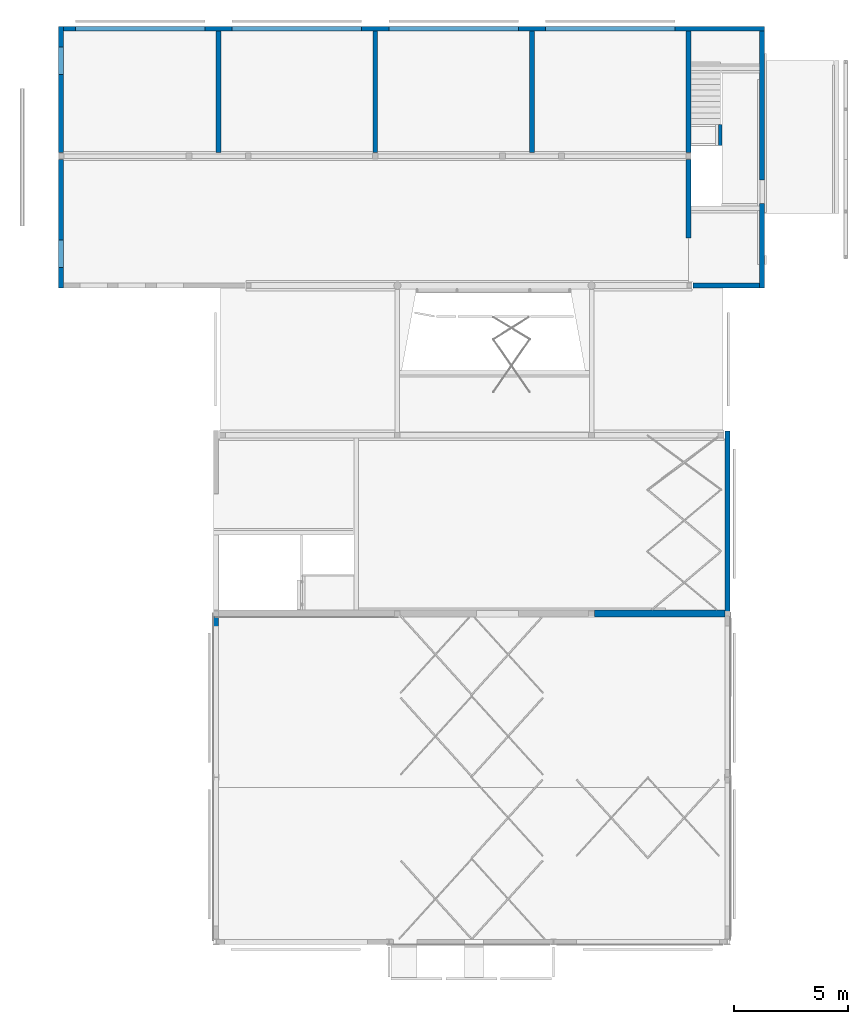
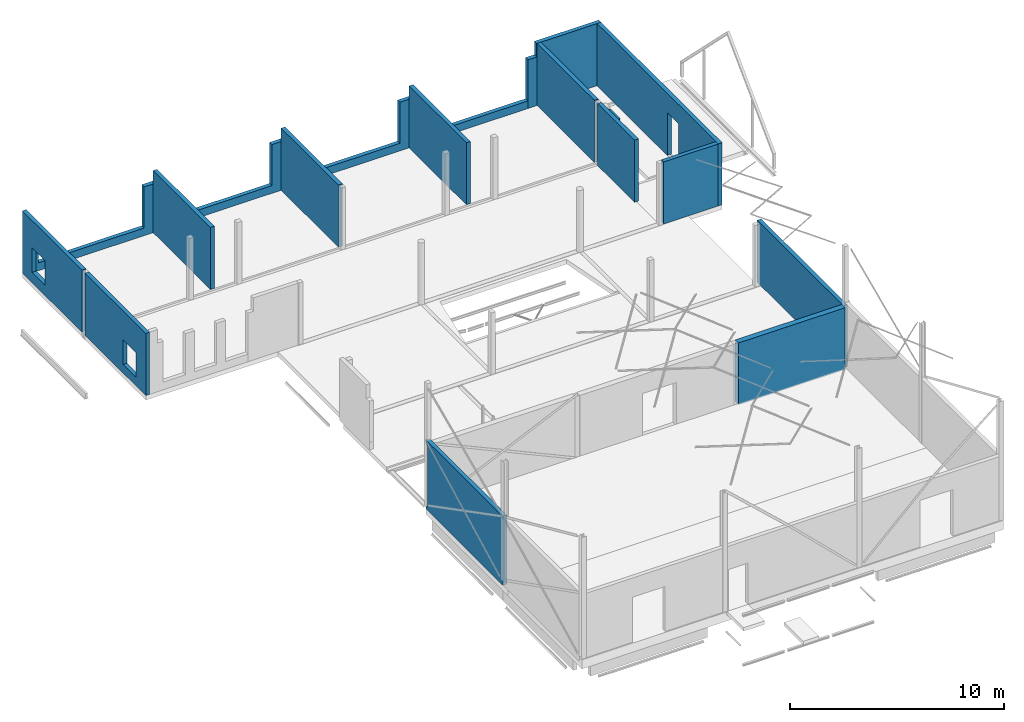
# One storey, part 11 of 14: 15 walls, 9 openings.
"""IFC2X3 building model written with IfcOpenShell, lengths in millimetres."""

import ifcopenshell
import ifcopenshell.guid

model = None  # the IFC model being written
_history = None  # IfcOwnerHistory: only IFC2X3 demands one
_inside = {}  # id of a spatial element -> (the spatial element, [elements in it])
_under = {}  # id of a project, library or spatial element -> (it, [spatial elements below it])
_declared = {}  # id of a project -> (the project, [libraries it declares])
_typed = {}  # id of a type object -> (the type object, [elements of that type])
_made_of = {}  # id of a material, layer set ... -> (it, [elements and type objects made of it])


def new_model(schema):
    """Start an empty IFC model of exactly this schema.

    Asked for "IFC4X3", IfcOpenShell would pick the latest addendum, in which some entities
    have other attributes; the version numbers below select the first issue.
    IFC2X3 requires an IfcOwnerHistory on every rooted entity: one is made here for all.
    """
    global model, _history
    if schema == "IFC4X3":
        model = ifcopenshell.file(schema_version=(4, 3, 0, 0))
    else:
        model = ifcopenshell.file(schema=schema)
    _inside.clear()
    _under.clear()
    _declared.clear()
    _typed.clear()
    _made_of.clear()
    _history = None
    if model.schema == "IFC2X3":
        org = make("IfcOrganization", Name="unknown")
        user = make(
            "IfcPersonAndOrganization",
            ThePerson=make("IfcPerson", FamilyName="unknown"),
            TheOrganization=org,
        )
        app = make(
            "IfcApplication",
            ApplicationDeveloper=org,
            Version="unknown",
            ApplicationFullName="unknown",
            ApplicationIdentifier="unknown",
        )
        _history = make(
            "IfcOwnerHistory",
            OwningUser=user,
            OwningApplication=app,
            ChangeAction="ADDED",
            CreationDate=0,
        )
    return model


def make(cls, **values):
    """One entity of the class cls with the attributes given. An attribute that is None is left unset."""
    return model.create_entity(
        cls, **{name: value for name, value in values.items() if value is not None}
    )


def entity(cls, *values):
    """Any entity or typed value of the class cls, its attributes in the order of the schema. None: left unset."""
    e = model.create_entity(cls)
    for i, value in enumerate(values):
        if value is not None:
            e[i] = value
    return e


def rooted(cls, **values):
    """An entity with a GlobalId (a new one), such as an element, a storey or a relation."""
    return make(cls, GlobalId=ifcopenshell.guid.new(), OwnerHistory=_history, **values)


def si_unit(unit_type, name, prefix=None):
    """IfcSIUnit, for example si_unit("LENGTHUNIT", "METRE", prefix="MILLI")."""
    return make("IfcSIUnit", UnitType=unit_type, Prefix=prefix, Name=name)


def converted_unit(unit_type, name, factor, base, dimensions=None, offset=None):
    """IfcConversionBasedUnit, such as the inch: factor (a typed value) times the base unit."""
    return make(
        "IfcConversionBasedUnit"
        if offset is None
        else "IfcConversionBasedUnitWithOffset",
        ConversionOffset=offset,
        Dimensions=None
        if dimensions is None
        else entity("IfcDimensionalExponents", *dimensions),
        UnitType=unit_type,
        Name=name,
        ConversionFactor=make(
            "IfcMeasureWithUnit", ValueComponent=factor, UnitComponent=base
        ),
    )


def derived_unit(unit_type, elements):
    """IfcDerivedUnit: a product of units, each with its exponent."""
    return make(
        "IfcDerivedUnit",
        Elements=[
            make("IfcDerivedUnitElement", Unit=unit, Exponent=power)
            for unit, power in elements
        ],
        UnitType=unit_type,
    )


def assignment(units):
    """IfcUnitAssignment: the units of a project."""
    return None if units is None else make("IfcUnitAssignment", Units=units)


def point(xyz):
    """IfcCartesianPoint."""
    return None if xyz is None else make("IfcCartesianPoint", Coordinates=xyz)


def direction(xyz):
    """IfcDirection."""
    return None if xyz is None else make("IfcDirection", DirectionRatios=xyz)


def frame(location, z_axis=None, x_axis=None):
    """IfcAxis2Placement3D, a coordinate frame: its origin and axes. An axis left out is left unset."""
    return make(
        "IfcAxis2Placement3D",
        Location=point(location),
        Axis=direction(z_axis),
        RefDirection=direction(x_axis),
    )


def frame_2d(location, x_axis=None):
    """IfcAxis2Placement2D, a coordinate frame in the plane: its origin and x axis."""
    return make(
        "IfcAxis2Placement2D", Location=point(location), RefDirection=direction(x_axis)
    )


def origin():
    """The frame at (0, 0, 0) with its axes left unset."""
    return frame((0.0, 0.0, 0.0))


def origin_2d_with_axis():
    """The frame at (0, 0) in the plane with the x axis (1, 0) written out."""
    return frame_2d((0.0, 0.0), x_axis=(1.0, 0.0))


def place(relative_to, where):
    """IfcLocalPlacement: puts the frame where relative to a parent placement (None: the world)."""
    return make(
        "IfcLocalPlacement", PlacementRelTo=relative_to, RelativePlacement=where
    )


def context(
    kind, dimensions, precision=None, world=None, true_north=None, identifier=None
):
    """IfcGeometricRepresentationContext, for example the 3D "Model" context."""
    return make(
        "IfcGeometricRepresentationContext",
        ContextIdentifier=identifier,
        ContextType=kind,
        CoordinateSpaceDimension=dimensions,
        Precision=precision,
        WorldCoordinateSystem=world,
        TrueNorth=true_north,
    )


def subcontext(parent, identifier, kind, view, scale=None):
    """IfcGeometricRepresentationSubContext, for example "Body" below "Model"."""
    return make(
        "IfcGeometricRepresentationSubContext",
        ContextIdentifier=identifier,
        ContextType=kind,
        ParentContext=parent,
        TargetScale=scale,
        TargetView=view,
    )


def project(units=None, contexts=None):
    """IfcProject with its units and contexts."""
    return rooted(
        "IfcProject",
        Name="project",
        RepresentationContexts=contexts,
        UnitsInContext=assignment(units),
    )


def spatial(cls, under=None, at=None, **own):
    """A site, building, storey or space (cls), placed at a placement, below another one or the project."""
    s = rooted(cls, ObjectPlacement=at, **own)
    if under is not None:
        _under.setdefault(under.id(), (under, []))[1].append(s)
    return s


def profile(cls, at=None, kind="AREA", **sizes):
    """A parametric profile (cls). Its sizes go by their IFC names, for example OverallWidth=200.0."""
    return make(cls, ProfileType=kind, Position=at, **sizes)


def rectangle(**sizes):
    """IfcRectangleProfileDef."""
    return profile("IfcRectangleProfileDef", **sizes)


def extrude(swept, where, along, depth):
    """IfcExtrudedAreaSolid: the profile swept, set in the frame where, extruded along a direction by depth."""
    return make(
        "IfcExtrudedAreaSolid",
        SweptArea=swept,
        Position=where,
        ExtrudedDirection=direction(along),
        Depth=depth,
    )


def faces_of(points, faces, orient=None, outer=None):
    """IfcFace entities. A face is a list of loops; a loop is a list of indices into points, from 0.

    orient and outer hold one flag for each loop. By default every Orientation is true, the
    first loop of a face is its IfcFaceOuterBound and the others are IfcFaceBound.
    """
    made = []
    for i, loops in enumerate(faces):
        bounds = []
        for j, loop in enumerate(loops):
            is_outer = j == 0 if outer is None else outer[i][j]
            bounds.append(
                make(
                    "IfcFaceOuterBound" if is_outer else "IfcFaceBound",
                    Bound=make("IfcPolyLoop", Polygon=[points[k] for k in loop]),
                    Orientation=True if orient is None else orient[i][j],
                )
            )
        made.append(make("IfcFace", Bounds=bounds))
    return made


def faceted_brep(points, faces, orient=None, outer=None, voids=None):
    """IfcFacetedBrep: a solid bounded by flat faces; with voids (closed shells), ...WithVoids."""
    shared = [point(p) for p in points]
    hull = make("IfcClosedShell", CfsFaces=faces_of(shared, faces, orient, outer))
    if voids is None:
        return make("IfcFacetedBrep", Outer=hull)
    return make(
        "IfcFacetedBrepWithVoids",
        Outer=hull,
        Voids=[
            make(cls, CfsFaces=faces_of(shared, fs, o, b)) for cls, fs, o, b in voids
        ],
    )


def shape(context_of_items, identifier, shape_type, items):
    """IfcShapeRepresentation: the items that make up one representation, for example the "Body"."""
    return make(
        "IfcShapeRepresentation",
        ContextOfItems=context_of_items,
        RepresentationIdentifier=identifier,
        RepresentationType=shape_type,
        Items=items,
    )


def material(Name=None, Category=None):
    """IfcMaterial."""
    return make("IfcMaterial", Name=Name, Category=Category)


def layer(
    of_material, thickness, ventilated=None, Name=None, Category=None, Priority=None
):
    """IfcMaterialLayer: one layer of a wall or slab, of a material (None: an air gap)."""
    return make(
        "IfcMaterialLayer",
        Material=of_material,
        LayerThickness=thickness,
        IsVentilated=ventilated,
        Name=Name,
        Category=Category,
        Priority=Priority,
    )


def layer_set(layers, Name=None):
    """IfcMaterialLayerSet."""
    return make("IfcMaterialLayerSet", MaterialLayers=layers, LayerSetName=Name)


def layer_usage(for_layer_set, set_direction, sense, offset, extent=None):
    """IfcMaterialLayerSetUsage: how a layer set lies in its element."""
    return make(
        "IfcMaterialLayerSetUsage",
        ForLayerSet=for_layer_set,
        LayerSetDirection=set_direction,
        DirectionSense=sense,
        OffsetFromReferenceLine=offset,
        ReferenceExtent=extent,
    )


def made_of(thing, what):
    """Note that an element or type object is made of a material, layer set ...; save() writes the relation."""
    if what is not None:
        _made_of.setdefault(what.id(), (what, []))[1].append(thing)
    return thing


def type_object(cls, material=None, **own):
    """A type object (cls), such as IfcWallType, which elements share."""
    return made_of(rooted(cls, **own), material)


def element(
    cls,
    number,
    at=None,
    inside=None,
    cuts=None,
    type_object=None,
    material=None,
    context=None,
    identifier="Body",
    shape_type=None,
    held_by="IfcProductDefinitionShape",
    body=None,
    shapes=None,
    **own,
):
    """One element of the class cls, such as IfcWall. Its Tag is "e" and its number.

    at: its placement. inside: the storey or other place that contains it. cuts: it is an
    opening in that element (IfcRelVoidsElement). A single representation is given by context,
    identifier, shape_type and body (its items); several are given by shapes. held_by: the class
    of the entity that holds the representations. save() writes the other relations.
    """
    e = rooted(cls, Tag="e%d" % number, ObjectPlacement=at, **own)
    if body is not None:
        shapes = [shape(context, identifier, shape_type, body)]
    if shapes is not None:
        e.Representation = make(held_by, Representations=shapes)
    if inside is not None:
        _inside.setdefault(inside.id(), (inside, []))[1].append(e)
    if cuts is not None:
        rooted(
            "IfcRelVoidsElement", RelatingBuildingElement=cuts, RelatedOpeningElement=e
        )
    if type_object is not None:
        _typed.setdefault(type_object.id(), (type_object, []))[1].append(e)
    return made_of(e, material)


def aggregate(whole, parts):
    """IfcRelAggregates: a whole, such as a stair, and the parts it consists of."""
    return rooted("IfcRelAggregates", RelatingObject=whole, RelatedObjects=parts)


def save(model, path):
    """Write the relations noted so far, then the file.

    IfcRelAggregates (storeys below a building ...), IfcRelContainedInSpatialStructure (elements
    in a storey), IfcRelDefinesByType, IfcRelAssociatesMaterial and IfcRelDeclares: one each for
    every whole, place, type object, material and project.
    """
    for whole, parts in _under.values():
        aggregate(whole, parts)
    for where, things in _inside.values():
        rooted(
            "IfcRelContainedInSpatialStructure",
            RelatedElements=things,
            RelatingStructure=where,
        )
    for kind, things in _typed.values():
        rooted("IfcRelDefinesByType", RelatedObjects=things, RelatingType=kind)
    for what, things in _made_of.values():
        rooted("IfcRelAssociatesMaterial", RelatedObjects=things, RelatingMaterial=what)
    for by, libraries in _declared.values():
        rooted("IfcRelDeclares", RelatingContext=by, RelatedDefinitions=libraries)
    model.write(path)


model = new_model("IFC2X3")

# Units and contexts
model_context = context("Model", 3, precision=0.01, world=origin(), true_north=direction((6.123031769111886e-17, 1.0)))
body_context = subcontext(model_context, "Body", "Model", "MODEL_VIEW")
ifc_project = project(units=[si_unit("LENGTHUNIT", "METRE", prefix="MILLI"), si_unit("AREAUNIT", "SQUARE_METRE", prefix="MILLI"), si_unit("VOLUMEUNIT", "CUBIC_METRE"), converted_unit("PLANEANGLEUNIT", "DEGREE", entity("IfcPlaneAngleMeasure", 0.017453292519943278), si_unit("PLANEANGLEUNIT", "RADIAN"), dimensions=[0, 0, 0, 0, 0, 0, 0]), si_unit("MASSUNIT", "GRAM", prefix="KILO"), derived_unit("MASSDENSITYUNIT", [(si_unit("MASSUNIT", "GRAM", prefix="KILO"), 1), (si_unit("LENGTHUNIT", "METRE"), -3)]), derived_unit("IONCONCENTRATIONUNIT", [(si_unit("MASSUNIT", "GRAM", prefix="KILO"), 1), (si_unit("LENGTHUNIT", "METRE"), -3)]), derived_unit("MOMENTOFINERTIAUNIT", [(si_unit("LENGTHUNIT", "METRE"), 4)]), si_unit("TIMEUNIT", "SECOND"), si_unit("FREQUENCYUNIT", "HERTZ"), si_unit("THERMODYNAMICTEMPERATUREUNIT", "DEGREE_CELSIUS"), derived_unit("THERMALTRANSMITTANCEUNIT", [(si_unit("MASSUNIT", "GRAM", prefix="KILO"), 1), (si_unit("THERMODYNAMICTEMPERATUREUNIT", "KELVIN"), -1), (si_unit("TIMEUNIT", "SECOND"), -3)]), derived_unit("THERMALCONDUCTANCEUNIT", [(si_unit("MASSUNIT", "GRAM", prefix="KILO"), 1), (si_unit("THERMODYNAMICTEMPERATUREUNIT", "KELVIN"), -1), (si_unit("TIMEUNIT", "SECOND"), -3), (si_unit("LENGTHUNIT", "METRE"), 1)]), derived_unit("VOLUMETRICFLOWRATEUNIT", [(si_unit("LENGTHUNIT", "METRE", prefix="DECI"), 3), (si_unit("TIMEUNIT", "SECOND"), -1)]), derived_unit("MASSFLOWRATEUNIT", [(si_unit("MASSUNIT", "GRAM", prefix="KILO"), 1), (si_unit("TIMEUNIT", "SECOND"), -1)]), derived_unit("ROTATIONALFREQUENCYUNIT", [(si_unit("TIMEUNIT", "SECOND"), -1)]), si_unit("ELECTRICCURRENTUNIT", "AMPERE"), si_unit("ELECTRICVOLTAGEUNIT", "VOLT"), si_unit("POWERUNIT", "WATT"), si_unit("FORCEUNIT", "NEWTON", prefix="KILO"), si_unit("ILLUMINANCEUNIT", "LUX"), si_unit("LUMINOUSFLUXUNIT", "LUMEN"), si_unit("LUMINOUSINTENSITYUNIT", "CANDELA"), si_unit("ENERGYUNIT", "JOULE"), derived_unit("USERDEFINED", [(si_unit("MASSUNIT", "GRAM", prefix="KILO"), -1), (si_unit("LENGTHUNIT", "METRE"), -2), (si_unit("TIMEUNIT", "SECOND"), 3), (si_unit("LUMINOUSFLUXUNIT", "LUMEN"), 1)]), derived_unit("USERDEFINED", [(si_unit("MASSUNIT", "GRAM", prefix="KILO"), 1), (si_unit("TIMEUNIT", "SECOND"), -3), (si_unit("LENGTHUNIT", "METRE"), 3), (si_unit("ELECTRICCURRENTUNIT", "AMPERE"), -2)]), derived_unit("SOUNDPOWERUNIT", [(si_unit("MASSUNIT", "GRAM", prefix="KILO"), 1), (si_unit("TIMEUNIT", "SECOND"), -3), (si_unit("LENGTHUNIT", "METRE"), 2)]), derived_unit("SOUNDPRESSUREUNIT", [(si_unit("MASSUNIT", "GRAM", prefix="KILO"), 1), (si_unit("LENGTHUNIT", "METRE"), -1), (si_unit("TIMEUNIT", "SECOND"), -2)]), derived_unit("LINEARVELOCITYUNIT", [(si_unit("LENGTHUNIT", "METRE"), 1), (si_unit("TIMEUNIT", "SECOND"), -1)]), si_unit("PRESSUREUNIT", "PASCAL"), derived_unit("USERDEFINED", [(si_unit("MASSUNIT", "GRAM", prefix="KILO"), 1), (si_unit("LENGTHUNIT", "METRE"), -2), (si_unit("TIMEUNIT", "SECOND"), -2)]), derived_unit("LINEARFORCEUNIT", [(si_unit("MASSUNIT", "GRAM", prefix="KILO"), 1), (si_unit("TIMEUNIT", "SECOND"), -2)]), derived_unit("PLANARFORCEUNIT", [(si_unit("MASSUNIT", "GRAM", prefix="KILO"), 1), (si_unit("LENGTHUNIT", "METRE"), -1), (si_unit("TIMEUNIT", "SECOND"), -2)]), derived_unit("SPECIFICHEATCAPACITYUNIT", [(si_unit("THERMODYNAMICTEMPERATUREUNIT", "KELVIN"), -1), (si_unit("LENGTHUNIT", "METRE"), 2), (si_unit("TIMEUNIT", "SECOND"), -2)]), derived_unit("HEATFLUXDENSITYUNIT", [(si_unit("MASSUNIT", "GRAM", prefix="KILO"), 1), (si_unit("TIMEUNIT", "SECOND"), -3)]), derived_unit("HEATINGVALUEUNIT", [(si_unit("LENGTHUNIT", "METRE"), 2), (si_unit("TIMEUNIT", "SECOND"), -2)]), derived_unit("VAPORPERMEABILITYUNIT", [(si_unit("LENGTHUNIT", "METRE"), -1), (si_unit("TIMEUNIT", "SECOND"), 1)]), derived_unit("DYNAMICVISCOSITYUNIT", [(si_unit("MASSUNIT", "GRAM", prefix="KILO"), 1), (si_unit("TIMEUNIT", "SECOND"), -1), (si_unit("LENGTHUNIT", "METRE"), -1)]), derived_unit("THERMALEXPANSIONCOEFFICIENTUNIT", [(si_unit("THERMODYNAMICTEMPERATUREUNIT", "KELVIN"), -1)]), derived_unit("MODULUSOFELASTICITYUNIT", [(si_unit("MASSUNIT", "GRAM", prefix="KILO"), 1), (si_unit("LENGTHUNIT", "METRE"), -1), (si_unit("TIMEUNIT", "SECOND"), -2)]), derived_unit("ISOTHERMALMOISTURECAPACITYUNIT", [(si_unit("MASSUNIT", "GRAM", prefix="KILO"), -1), (si_unit("LENGTHUNIT", "METRE"), 3)]), derived_unit("MOISTUREDIFFUSIVITYUNIT", [(si_unit("TIMEUNIT", "SECOND"), -1), (si_unit("LENGTHUNIT", "METRE"), 2)]), derived_unit("MASSPERLENGTHUNIT", [(si_unit("MASSUNIT", "GRAM", prefix="KILO"), 1), (si_unit("LENGTHUNIT", "METRE"), -1)]), derived_unit("THERMALRESISTANCEUNIT", [(si_unit("MASSUNIT", "GRAM", prefix="KILO"), -1), (si_unit("TIMEUNIT", "SECOND"), 3), (si_unit("THERMODYNAMICTEMPERATUREUNIT", "KELVIN"), 1)]), derived_unit("ACCELERATIONUNIT", [(si_unit("LENGTHUNIT", "METRE"), 1), (si_unit("TIMEUNIT", "SECOND"), -2)]), derived_unit("ANGULARVELOCITYUNIT", [(si_unit("TIMEUNIT", "SECOND"), -1), (si_unit("PLANEANGLEUNIT", "RADIAN"), 1)]), derived_unit("LINEARSTIFFNESSUNIT", [(si_unit("MASSUNIT", "GRAM", prefix="KILO"), 1), (si_unit("TIMEUNIT", "SECOND"), -2)]), derived_unit("WARPINGCONSTANTUNIT", [(si_unit("LENGTHUNIT", "METRE"), 6)]), derived_unit("LINEARMOMENTUNIT", [(si_unit("MASSUNIT", "GRAM", prefix="KILO"), 1), (si_unit("LENGTHUNIT", "METRE"), 1), (si_unit("TIMEUNIT", "SECOND"), -2)]), derived_unit("TORQUEUNIT", [(si_unit("MASSUNIT", "GRAM", prefix="KILO"), 1), (si_unit("LENGTHUNIT", "METRE"), 2), (si_unit("TIMEUNIT", "SECOND"), -2)])], contexts=[model_context])

# Site, building, storey
site_placement = place(None, origin())
site = spatial("IfcSite", under=ifc_project, at=site_placement, Name="Default", CompositionType="ELEMENT")
building_placement = place(site_placement, origin())
building = spatial("IfcBuilding", under=site, at=building_placement, CompositionType="ELEMENT")
storey_placement = place(building_placement, frame((0.0, 0.0, 3730.0)))
storey = spatial("IfcBuildingStorey", under=building, at=storey_placement, Name="V1 1e verd. (bk ruwe vloer)", CompositionType="ELEMENT", Elevation=3729.9999999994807)

# Walls
ifc_material_1 = material(Name="Kalkzandsteen, lijmwerk CS12")
ifc_layer_1 = layer(ifc_material_1, 214.0)
ifc_layer_set_1 = layer_set([ifc_layer_1], Name="Basic Wall:bt_kzst 214")
ifc_layer_usage_1 = layer_usage(ifc_layer_set_1, "AXIS2", "NEGATIVE", 107.0)
wall_type_1 = type_object("IfcWallType", Name="Basic Wall:bt_kzst 214", PredefinedType="STANDARD", material=ifc_layer_set_1)
wall_1_placement = place(storey_placement, frame((6825.000781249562, 43144.57320506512, 0.0), z_axis=(0.0, 0.0, 1.0), x_axis=(0.0, -1.0, 0.0)))
element("IfcWallStandardCase", 1, at=wall_1_placement, inside=storey, type_object=wall_type_1, material=ifc_layer_usage_1, Name="Basic Wall:bt_kzst 214", ObjectType="Basic Wall:bt_kzst 214", context=body_context, shape_type="SweptSolid", body=[
    extrude(rectangle(XDim=5349.999999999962, YDim=213.99999999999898, at=frame_2d((2674.999999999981, -7.815970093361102e-14), x_axis=(-1.0, 0.0))), origin(), (0.0, 0.0, 1.0), 3539.9999999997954),
])
wall_2_placement = place(storey_placement, frame((13725.000781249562, 43144.57320506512, 0.0), z_axis=(0.0, 0.0, 1.0), x_axis=(0.0, -1.0, 0.0)))
element("IfcWallStandardCase", 2, at=wall_2_placement, inside=storey, type_object=wall_type_1, material=ifc_layer_usage_1, Name="Basic Wall:bt_kzst 214", ObjectType="Basic Wall:bt_kzst 214", context=body_context, shape_type="SweptSolid", body=[
    extrude(rectangle(XDim=5349.999999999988, YDim=213.99999999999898, at=frame_2d((2674.999999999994, -7.815970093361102e-14), x_axis=(-1.0, 0.0))), origin(), (0.0, 0.0, 1.0), 3539.9999999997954),
])

# Wall, openings
wall_3_placement = place(storey_placement, frame((0.0, 43251.57320506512, 0.0)))
wall_3 = element("IfcWallStandardCase", 3, at=wall_3_placement, inside=storey, type_object=wall_type_1, material=ifc_layer_usage_1, Name="Basic Wall:bt_kzst 214", ObjectType="Basic Wall:bt_kzst 214", context=body_context, shape_type="SweptSolid", body=[
    extrude(rectangle(XDim=26925.41185097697, YDim=214.00000000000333, at=frame_2d((13462.705925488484, 0.0), x_axis=(-1.0, 0.0))), origin(), (0.0, 0.0, 1.0), 2778.0000000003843),
])
opening_1_placement = place(wall_3_placement, frame((0.0, -43251.57320506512, 0.0)))
element("IfcOpeningElement", 4, at=opening_1_placement, cuts=wall_3, Name="Basic Wall:bt_kzst 214", ObjectType="Opening", context=body_context, shape_type="SweptSolid", body=[
    extrude(rectangle(XDim=2339.999999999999, YDim=5700.301691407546, at=frame_2d((-2.2737367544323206e-12, 2.2737367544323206e-13), x_axis=(0.0, 1.0))), frame((24076.705829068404, 41620.57320506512, 1608.0), z_axis=(0.0, 1.0, 0.0), x_axis=(1.0, 0.0, 0.0)), (0.0, 0.0, 1.0), 3048.0),
])
opening_2_placement = place(wall_3_placement, frame((0.0, -43251.57320506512, 0.0)))
element("IfcOpeningElement", 5, at=opening_2_placement, cuts=wall_3, Name="Basic Wall:bt_kzst 214", ObjectType="Opening", context=body_context, shape_type="SweptSolid", body=[
    extrude(rectangle(XDim=2339.999999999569, YDim=5700.300226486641, at=frame_2d((5.684341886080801e-13, -2.0463630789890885e-12), x_axis=(1.0, 0.0))), frame((17176.341664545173, 41834.57320506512, 1608.0), z_axis=(0.0, 1.0, 0.0), x_axis=(0.0, 0.0, -1.0)), (0.0, 0.0, 1.0), 3048.0),
])
opening_3_placement = place(wall_3_placement, frame((0.0, -43251.57320506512, 0.0)))
element("IfcOpeningElement", 6, at=opening_3_placement, cuts=wall_3, Name="Basic Wall:bt_kzst 214", ObjectType="Opening", context=body_context, shape_type="SweptSolid", body=[
    extrude(rectangle(XDim=2340.0, YDim=5700.299494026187, at=frame_2d((2.2737367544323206e-13, -1.1368683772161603e-12), x_axis=(1.0, 0.0))), frame((10275.978598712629, 41834.57320506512, 1608.0), z_axis=(0.0, 1.0, 0.0), x_axis=(0.0, 0.0, -1.0)), (0.0, 0.0, 1.0), 3048.0),
])
opening_4_placement = place(wall_3_placement, frame((0.0, -43251.57320506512, 0.0)))
element("IfcOpeningElement", 7, at=opening_4_placement, cuts=wall_3, Name="Basic Wall:bt_kzst 214", ObjectType="Opening", context=body_context, shape_type="SweptSolid", body=[
    extrude(rectangle(XDim=2340.0, YDim=5700.30045538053, at=frame_2d((2.2737367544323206e-13, -6.821210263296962e-13), x_axis=(1.0, 0.0))), frame((3375.6154184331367, 41834.57320506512, 1608.0), z_axis=(0.0, 1.0, 0.0), x_axis=(0.0, 0.0, -1.0)), (0.0, 0.0, 1.0), 3048.0),
])

# Wall
wall_4_placement = place(storey_placement, frame((20624.984654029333, 43144.57320506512, 0.0), z_axis=(0.0, 0.0, 1.0), x_axis=(0.0, -1.0, 0.0)))
element("IfcWallStandardCase", 8, at=wall_4_placement, inside=storey, type_object=wall_type_1, material=ifc_layer_usage_1, Name="Basic Wall:bt_kzst 214", ObjectType="Basic Wall:bt_kzst 214", context=body_context, shape_type="SweptSolid", body=[
    extrude(rectangle(XDim=5350.000000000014, YDim=214.00000000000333, at=frame_2d((2675.000000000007, -7.815970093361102e-14), x_axis=(-1.0, 0.0))), origin(), (0.0, 0.0, 1.0), 3539.9999999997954),
])

# Wall, openings
wall_5_placement = place(storey_placement, frame((26925.411850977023, 43251.5732050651, 0.0)))
wall_5 = element("IfcWallStandardCase", 9, at=wall_5_placement, inside=storey, type_object=wall_type_1, material=ifc_layer_usage_1, Name="Basic Wall:bt_kzst 214", ObjectType="Basic Wall:bt_kzst 214", context=body_context, shape_type="SweptSolid", body=[
    extrude(rectangle(XDim=3938.5653439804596, YDim=214.00000000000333, at=frame_2d((1969.2826719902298, 0.0), x_axis=(-1.0, 0.0))), origin(), (0.0, 0.0, 1.0), 3539.9999999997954),
])
opening_5_placement = place(wall_5_placement, origin())
element("IfcOpeningElement", 10, at=opening_5_placement, cuts=wall_5, Name="Basic Wall:bt_kzst 214", ObjectType="Opening", context=body_context, shape_type="SweptSolid", body=[
    extrude(rectangle(XDim=761.999999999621, YDim=470.3000000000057, at=origin_2d_with_axis()), frame((235.15000000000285, -107.0, 3159.0), z_axis=(0.0, 1.0, 0.0), x_axis=(0.0, 0.0, -1.0)), (0.0, 0.0, 1.0), 214.00000000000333),
])
opening_6_placement = place(wall_5_placement, origin())
element("IfcOpeningElement", 11, at=opening_6_placement, cuts=wall_5, Name="Basic Wall:bt_kzst 214", ObjectType="Opening", context=body_context, shape_type="SweptSolid", body=[
    extrude(rectangle(XDim=2339.999999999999, YDim=5700.301691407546, at=frame_2d((-2.2737367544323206e-12, 2.2737367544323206e-13), x_axis=(0.0, 1.0))), frame((-2848.7060219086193, -1631.0, 1608.0), z_axis=(0.0, 1.0, 0.0), x_axis=(1.0, 0.0, 0.0)), (0.0, 0.0, 1.0), 3048.0),
])

# Wall
wall_6_placement = place(storey_placement, frame((27524.979520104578, 43144.57320506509, 0.0), z_axis=(0.0, 0.0, 1.0), x_axis=(0.0, -1.0, 0.0)))
element("IfcWallStandardCase", 12, at=wall_6_placement, inside=storey, type_object=wall_type_1, material=ifc_layer_usage_1, Name="Basic Wall:bt_kzst 214", ObjectType="Basic Wall:bt_kzst 214", context=body_context, shape_type="SweptSolid", body=[
    extrude(rectangle(XDim=5350.000000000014, YDim=214.00000000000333, at=frame_2d((2675.000000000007, -7.815970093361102e-14), x_axis=(-1.0, 0.0))), origin(), (0.0, 0.0, 1.0), 3539.9999999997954),
])

# Wall, opening
wall_7_placement = place(storey_placement, frame((30756.977194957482, 43144.57320506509, 0.0), z_axis=(0.0, 0.0, 1.0), x_axis=(0.0, -1.0, 0.0)))
wall_7 = element("IfcWallStandardCase", 13, at=wall_7_placement, inside=storey, type_object=wall_type_1, material=ifc_layer_usage_1, Name="Basic Wall:bt_kzst 214", ObjectType="Basic Wall:bt_kzst 214", context=body_context, shape_type="SweptSolid", body=[
    extrude(rectangle(XDim=11313.99999999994, YDim=214.00000000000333, at=frame_2d((5656.99999999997, 0.0), x_axis=(-1.0, 0.0))), origin(), (0.0, 0.0, 1.0), 3539.9999999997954),
])
opening_7_placement = place(wall_7_placement, frame((43144.57320506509, -30756.977194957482, 0.0), z_axis=(0.0, 0.0, 1.0), x_axis=(0.0, 1.0, 0.0)))
element("IfcOpeningElement", 14, at=opening_7_placement, cuts=wall_7, Name="Basic Wall:bt_kzst 214", ObjectType="Opening", context=body_context, shape_type="SweptSolid", body=[
    extrude(rectangle(XDim=2450.000000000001, YDim=1034.1463477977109, at=frame_2d((-2.1600499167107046e-12, -5.684341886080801e-13), x_axis=(0.0, 1.0))), frame((30356.97719495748, 36069.19121190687, 1225.0), z_axis=(1.0, 0.0, 0.0), x_axis=(0.0, -1.0, 0.0)), (0.0, 0.0, 1.0), 800.0),
])

ifc_layer_usage_2 = layer_usage(ifc_layer_set_1, "AXIS2", "POSITIVE", -107.0)
wall_8_placement = place(storey_placement, frame((-107.0, 43358.57320506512, 0.0), z_axis=(0.0, 0.0, 1.0), x_axis=(0.0, -1.0, 0.0)))
wall_8 = element("IfcWallStandardCase", 15, at=wall_8_placement, inside=storey, type_object=wall_type_1, material=ifc_layer_usage_2, Name="Basic Wall:bt_kzst 214", ObjectType="Basic Wall:bt_kzst 214", context=body_context, shape_type="SweptSolid", body=[
    extrude(rectangle(XDim=5564.000000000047, YDim=214.00000000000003, at=frame_2d((2782.0000000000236, 0.0), x_axis=(-1.0, 0.0))), origin(), (0.0, 0.0, 1.0), 3539.9999999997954),
])
opening_8_placement = place(wall_8_placement, frame((43358.57320506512, 107.0, 0.0), z_axis=(0.0, 0.0, 1.0), x_axis=(0.0, 1.0, 0.0)))
element("IfcOpeningElement", 16, at=opening_8_placement, cuts=wall_8, Name="Basic Wall:bt_kzst 214", ObjectType="Opening", context=body_context, shape_type="SweptSolid", body=[
    extrude(rectangle(XDim=1400.0, YDim=1200.149653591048, at=origin_2d_with_axis()), frame((-1524.0, 41844.49837826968, 1291.6197721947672), z_axis=(1.0, 0.0, 0.0), x_axis=(0.0, 0.0, -1.0)), (0.0, 0.0, 1.0), 3048.0),
])

wall_9_placement = place(storey_placement, frame((-107.0, 37494.573205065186, 0.0), z_axis=(0.0, 0.0, 1.0), x_axis=(0.0, -1.0, 0.0)))
wall_9 = element("IfcWallStandardCase", 17, at=wall_9_placement, inside=storey, type_object=wall_type_1, material=ifc_layer_usage_2, Name="Basic Wall:bt_kzst 214", ObjectType="Basic Wall:bt_kzst 214", context=body_context, shape_type="SweptSolid", body=[
    extrude(rectangle(XDim=5663.999999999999, YDim=214.0, at=frame_2d((2831.9999999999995, 0.0), x_axis=(-1.0, 0.0))), origin(), (0.0, 0.0, 1.0), 3539.9999999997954),
])
opening_9_placement = place(wall_9_placement, frame((37494.573205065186, 107.0, 0.0), z_axis=(0.0, 0.0, 1.0), x_axis=(0.0, 1.0, 0.0)))
element("IfcOpeningElement", 18, at=opening_9_placement, cuts=wall_9, Name="Basic Wall:bt_kzst 214", ObjectType="Opening", context=body_context, shape_type="SweptSolid", body=[
    extrude(rectangle(XDim=1400.0, YDim=1199.9789603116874, at=frame_2d((0.0, 2.1600499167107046e-12), x_axis=(1.0, 0.0))), frame((-1524.0, 33344.186392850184, 1193.1136307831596), z_axis=(1.0, 0.0, 0.0), x_axis=(0.0, 0.0, -1.0)), (0.0, 0.0, 1.0), 3048.0),
])

# Walls
wall_10_placement = place(storey_placement, frame((30649.97719495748, 31937.573205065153, 0.0), z_axis=(0.0, 0.0, 1.0), x_axis=(-1.0, 0.0, 0.0)))
element("IfcWallStandardCase", 19, at=wall_10_placement, inside=storey, type_object=wall_type_1, material=ifc_layer_usage_1, Name="Basic Wall:bt_kzst 214", ObjectType="Basic Wall:bt_kzst 214", context=body_context, shape_type="SweptSolid", body=[
    extrude(rectangle(XDim=2937.0913414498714, YDim=214.00000000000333, at=frame_2d((1468.5456707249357, -8.455458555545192e-13), x_axis=(-1.0, 0.0))), origin(), (0.0, 0.0, 1.0), 3539.9999999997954),
])
wall_11_placement = place(storey_placement, frame((6718.0007812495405, 17494.60501307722, -150.0), z_axis=(0.0, 0.0, 1.0), x_axis=(0.0, -1.0, 0.0)))
element("IfcWall", 20, at=wall_11_placement, inside=storey, type_object=wall_type_1, Name="Basic Wall:bt_kzst 214", ObjectType="Basic Wall:bt_kzst 214", context=body_context, shape_type="Brep", body=[
    faceted_brep([(0.0, -107.0, 0.0), (7196.250000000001, -107.0, 0.0), (7196.250000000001, -107.0, 3930.0), (0.0, -107.0, 3930.0), (0.0, -107.0, 3795.960934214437), (0.0, -107.0, 3675.0), (150.0, -107.0, 3675.0), (150.0, -107.0, 150.0), (0.0, -107.0, 150.0), (0.0, -107.0, 33.09999999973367), (0.0, 107.0, 0.0), (0.0, 107.0, 33.09999999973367), (0.0, 107.0, 150.0), (150.0, 107.0, 150.0), (150.0, 107.0, 3675.0), (0.0, 107.0, 3675.0), (0.0, 107.0, 3795.960934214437), (0.0, 107.0, 3930.0), (7196.250000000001, 107.0, 3930.0), (7196.250000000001, 107.0, 0.0)], [[[0, 1, 2, 3, 4, 5, 6, 7, 8, 9]], [[10, 11, 12, 13, 14, 15, 16, 17, 18, 19]], [[1, 0, 10, 19]], [[2, 1, 19, 18]], [[3, 2, 18, 17]], [[0, 9, 8, 12, 11, 10]], [[5, 4, 3, 17, 16, 15]], [[7, 6, 14, 13]], [[7, 13, 12, 8]], [[5, 15, 14, 6]]]),
])
wall_12_placement = place(storey_placement, frame((29231.986142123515, 25544.577929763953, 0.0), z_axis=(0.0, 0.0, 1.0), x_axis=(0.0, -1.0, 0.0)))
element("IfcWallStandardCase", 21, at=wall_12_placement, inside=storey, type_object=wall_type_1, material=ifc_layer_usage_1, Name="Basic Wall:bt_kzst 214", ObjectType="Basic Wall:bt_kzst 214", context=body_context, shape_type="SweptSolid", body=[
    extrude(rectangle(XDim=8049.9729166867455, YDim=214.00000000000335, at=frame_2d((4024.9864583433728, 4.263256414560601e-13), x_axis=(-1.0, 0.0))), origin(), (0.0, 0.0, 1.0), 3539.9999999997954),
])
wall_13_placement = place(storey_placement, frame((27524.979520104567, 37494.57320506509, 0.0), z_axis=(0.0, 0.0, 1.0), x_axis=(0.0, -1.0, 0.0)))
element("IfcWallStandardCase", 22, at=wall_13_placement, inside=storey, type_object=wall_type_1, material=ifc_layer_usage_1, Name="Basic Wall:bt_kzst 214", ObjectType="Basic Wall:bt_kzst 214", context=body_context, shape_type="SweptSolid", body=[
    extrude(rectangle(XDim=3450.001488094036, YDim=214.00000000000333, at=frame_2d((1725.000744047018, 6.252776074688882e-13), x_axis=(-1.0, 0.0))), origin(), (0.0, 0.0, 1.0), 3539.9999999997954),
])
ifc_layer_2 = layer(ifc_material_1, 300.0)
ifc_layer_set_2 = layer_set([ifc_layer_2], Name="Basic Wall:bt_kzst 300")
ifc_layer_usage_3 = layer_usage(ifc_layer_set_2, "AXIS2", "POSITIVE", -150.0)
wall_type_2 = type_object("IfcWallType", Name="Basic Wall:bt_kzst 300", PredefinedType="STANDARD", material=ifc_layer_set_2)
wall_14_placement = place(storey_placement, frame((23374.98660715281, 17494.605013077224, 0.0)))
element("IfcWallStandardCase", 23, at=wall_14_placement, inside=storey, type_object=wall_type_2, material=ifc_layer_usage_3, Name="Basic Wall:bt_kzst 300", ObjectType="Basic Wall:bt_kzst 300", context=body_context, shape_type="SweptSolid", body=[
    extrude(rectangle(XDim=5746.999534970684, YDim=300.00000000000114, at=frame_2d((2873.499767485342, 2.5579538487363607e-13), x_axis=(-1.0, 0.0))), origin(), (0.0, 0.0, 1.0), 3524.999999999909),
])
ifc_material_2 = material(Name="Beton, prefab")
ifc_layer_3 = layer(ifc_material_2, 140.0)
ifc_layer_set_3 = layer_set([ifc_layer_3], Name="Basic Wall:bt_prefab betonwand d=140")
ifc_layer_usage_4 = layer_usage(ifc_layer_set_3, "AXIS2", "POSITIVE", -70.0)
wall_type_3 = type_object("IfcWallType", Name="Basic Wall:bt_prefab betonwand d=140", PredefinedType="STANDARD", material=ifc_layer_set_3)
wall_15_placement = place(storey_placement, frame((28918.51940937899, 39034.573205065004, 90.0), z_axis=(0.0, 0.0, 1.0), x_axis=(0.0, -1.0, 0.0)))
element("IfcWallStandardCase", 24, at=wall_15_placement, inside=storey, type_object=wall_type_3, material=ifc_layer_usage_4, Name="Basic Wall:bt_prefab betonwand d=140", ObjectType="Basic Wall:bt_prefab betonwand d=140", context=body_context, shape_type="SweptSolid", body=[
    extrude(rectangle(XDim=919.9999999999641, YDim=140.0000000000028, at=frame_2d((459.99999999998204, 0.0), x_axis=(-1.0, 0.0))), origin(), (0.0, 0.0, 1.0), 1670.000000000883),
])

save(model, "model.ifc")
